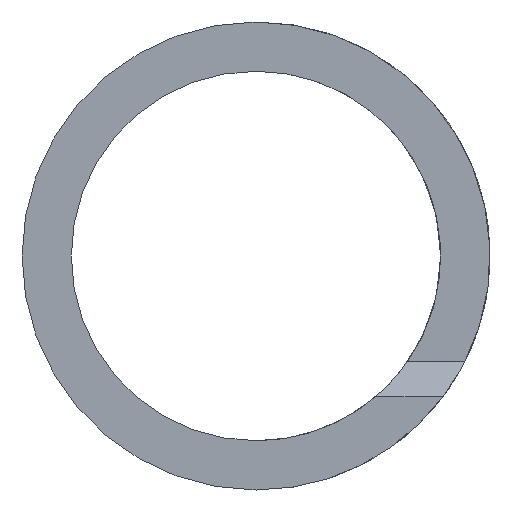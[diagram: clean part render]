
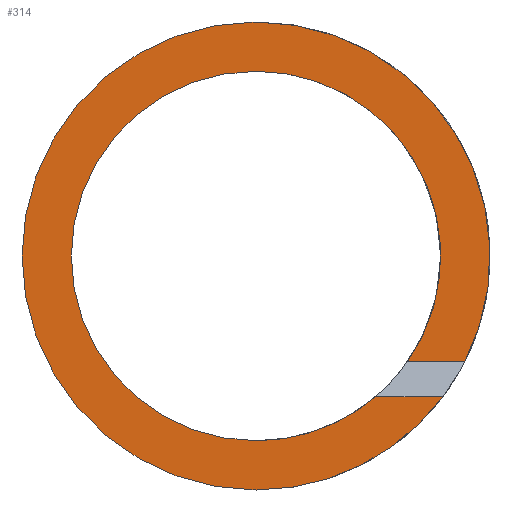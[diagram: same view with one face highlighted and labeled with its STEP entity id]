
A CAD part, front view. The second image highlights one B-rep face of the part: STEP entity #314.
In plain terms, the highlighted planar face has unit normal (0, -1, 0).
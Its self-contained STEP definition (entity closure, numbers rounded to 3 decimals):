
#12 = CARTESIAN_POINT ( 'NONE',  ( 19., -10., -8.586 ) ) ;
#38 = EDGE_CURVE ( 'NONE', #299, #556, #503, .T. ) ;
#42 = DIRECTION ( 'NONE',  ( 0., 0., 1. ) ) ;
#46 = CIRCLE ( 'NONE', #343, 15. ) ;
#55 = EDGE_CURVE ( 'NONE', #312, #607, #375, .T. ) ;
#66 = CIRCLE ( 'NONE', #500, 19. ) ;
#72 = CARTESIAN_POINT ( 'NONE',  ( 0., -10., 0. ) ) ;
#74 = DIRECTION ( 'NONE',  ( 0., 1., 0. ) ) ;
#75 = VECTOR ( 'NONE', #226, 1000. ) ;
#81 = ORIENTED_EDGE ( 'NONE', *, *, #545, .F. ) ;
#90 = DIRECTION ( 'NONE',  ( 0., 0., 1. ) ) ;
#99 = DIRECTION ( 'NONE',  ( 0., 0., 1. ) ) ;
#123 = CARTESIAN_POINT ( 'NONE',  ( 0., -10., -15. ) ) ;
#128 = CARTESIAN_POINT ( 'NONE',  ( 16.949, -10., -8.586 ) ) ;
#138 = PLANE ( 'NONE',  #579 ) ;
#153 = CARTESIAN_POINT ( 'NONE',  ( 0., -10., 0. ) ) ;
#160 = ORIENTED_EDGE ( 'NONE', *, *, #583, .T. ) ;
#162 = CARTESIAN_POINT ( 'NONE',  ( 0., -10., 0. ) ) ;
#191 = FACE_OUTER_BOUND ( 'NONE', #219, .T. ) ;
#196 = CIRCLE ( 'NONE', #548, 15. ) ;
#199 = DIRECTION ( 'NONE',  ( -1., 0., 0. ) ) ;
#207 = CIRCLE ( 'NONE', #587, 19. ) ;
#219 = EDGE_LOOP ( 'NONE', ( #492, #448, #160, #413, #81, #502, #591, #453 ) ) ;
#221 = CARTESIAN_POINT ( 'NONE',  ( 12.3, -10., -8.586 ) ) ;
#225 = DIRECTION ( 'NONE',  ( 0., 0., 1. ) ) ;
#226 = DIRECTION ( 'NONE',  ( 1., 0., 0. ) ) ;
#229 = CARTESIAN_POINT ( 'NONE',  ( 0., -10., 15. ) ) ;
#237 = CARTESIAN_POINT ( 'NONE',  ( 0., -10., -19. ) ) ;
#249 = DIRECTION ( 'NONE',  ( 0., 1., 0. ) ) ;
#263 = DIRECTION ( 'NONE',  ( 0., 0., 1. ) ) ;
#276 = CARTESIAN_POINT ( 'NONE',  ( 9.732, -10., -11.414 ) ) ;
#281 = DIRECTION ( 'NONE',  ( 0., 1., 0. ) ) ;
#299 = VERTEX_POINT ( 'NONE', #329 ) ;
#301 = EDGE_CURVE ( 'NONE', #556, #450, #66, .T. ) ;
#312 = VERTEX_POINT ( 'NONE', #229 ) ;
#314 = ADVANCED_FACE ( 'NONE', ( #191 ), #138, .F. ) ;
#323 = AXIS2_PLACEMENT_3D ( 'NONE', #531, #572, #483 ) ;
#324 = CARTESIAN_POINT ( 'NONE',  ( 0., -10., 19. ) ) ;
#329 = CARTESIAN_POINT ( 'NONE',  ( 15.189, -10., -11.414 ) ) ;
#343 = AXIS2_PLACEMENT_3D ( 'NONE', #153, #249, #99 ) ;
#363 = VERTEX_POINT ( 'NONE', #128 ) ;
#375 = CIRCLE ( 'NONE', #323, 15. ) ;
#380 = CARTESIAN_POINT ( 'NONE',  ( 0., -10., 0. ) ) ;
#387 = AXIS2_PLACEMENT_3D ( 'NONE', #72, #74, #263 ) ;
#413 = ORIENTED_EDGE ( 'NONE', *, *, #55, .T. ) ;
#415 = CARTESIAN_POINT ( 'NONE',  ( 19., -10., 0. ) ) ;
#432 = LINE ( 'NONE', #12, #511 ) ;
#438 = EDGE_CURVE ( 'NONE', #446, #602, #196, .T. ) ;
#439 = DIRECTION ( 'NONE',  ( 0., 1., 0. ) ) ;
#446 = VERTEX_POINT ( 'NONE', #276 ) ;
#448 = ORIENTED_EDGE ( 'NONE', *, *, #438, .T. ) ;
#450 = VERTEX_POINT ( 'NONE', #324 ) ;
#451 = EDGE_CURVE ( 'NONE', #446, #299, #473, .T. ) ;
#453 = ORIENTED_EDGE ( 'NONE', *, *, #38, .F. ) ;
#465 = CARTESIAN_POINT ( 'NONE',  ( 19., -10., -11.414 ) ) ;
#473 = LINE ( 'NONE', #465, #75 ) ;
#477 = CARTESIAN_POINT ( 'NONE',  ( 0., -10., 0. ) ) ;
#483 = DIRECTION ( 'NONE',  ( 0., 0., 1. ) ) ;
#484 = DIRECTION ( 'NONE',  ( 0., 0., 1. ) ) ;
#492 = ORIENTED_EDGE ( 'NONE', *, *, #451, .F. ) ;
#500 = AXIS2_PLACEMENT_3D ( 'NONE', #380, #521, #225 ) ;
#502 = ORIENTED_EDGE ( 'NONE', *, *, #515, .F. ) ;
#503 = CIRCLE ( 'NONE', #387, 19. ) ;
#511 = VECTOR ( 'NONE', #199, 1000. ) ;
#515 = EDGE_CURVE ( 'NONE', #450, #363, #207, .T. ) ;
#521 = DIRECTION ( 'NONE',  ( 0., 1., 0. ) ) ;
#530 = DIRECTION ( 'NONE',  ( 0., 1., 0. ) ) ;
#531 = CARTESIAN_POINT ( 'NONE',  ( 0., -10., 0. ) ) ;
#545 = EDGE_CURVE ( 'NONE', #363, #607, #432, .T. ) ;
#548 = AXIS2_PLACEMENT_3D ( 'NONE', #477, #281, #42 ) ;
#556 = VERTEX_POINT ( 'NONE', #237 ) ;
#572 = DIRECTION ( 'NONE',  ( 0., 1., 0. ) ) ;
#579 = AXIS2_PLACEMENT_3D ( 'NONE', #415, #530, #90 ) ;
#583 = EDGE_CURVE ( 'NONE', #602, #312, #46, .T. ) ;
#587 = AXIS2_PLACEMENT_3D ( 'NONE', #162, #439, #484 ) ;
#591 = ORIENTED_EDGE ( 'NONE', *, *, #301, .F. ) ;
#602 = VERTEX_POINT ( 'NONE', #123 ) ;
#607 = VERTEX_POINT ( 'NONE', #221 ) ;
